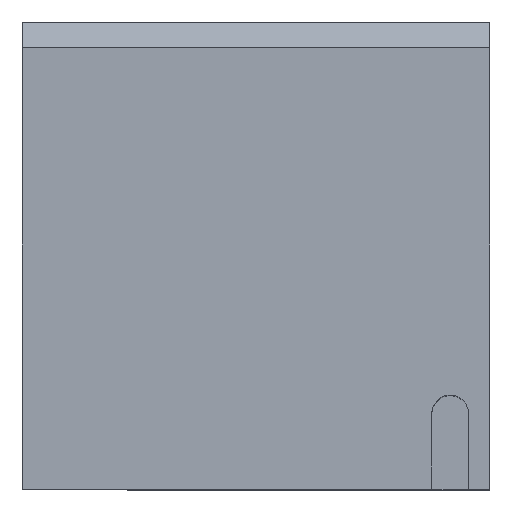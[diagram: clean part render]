
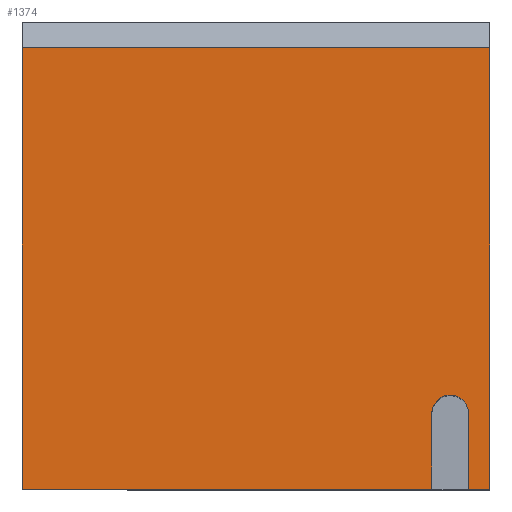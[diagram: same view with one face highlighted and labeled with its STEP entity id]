
A CAD part, top view. The second image highlights one B-rep face of the part: STEP entity #1374.
In plain terms, the highlighted planar face has unit normal (0, 0, 1).
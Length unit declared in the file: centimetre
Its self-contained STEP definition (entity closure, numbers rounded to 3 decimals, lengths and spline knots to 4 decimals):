
#17 = CARTESIAN_POINT ( 'NONE',  ( 1000., 1000., 1000. ) ) ;
#25 = EDGE_LOOP ( 'NONE', ( #800, #1163, #61, #259, #1486, #1098, #837, #1464 ) ) ;
#31 = VERTEX_POINT ( 'NONE', #947 ) ;
#38 = LINE ( 'NONE', #632, #948 ) ;
#61 = ORIENTED_EDGE ( 'NONE', *, *, #984, .F. ) ;
#100 = DIRECTION ( 'NONE',  ( 0., 1., 0. ) ) ;
#103 = CARTESIAN_POINT ( 'NONE',  ( 876.1632, 0., 1000. ) ) ;
#104 = CARTESIAN_POINT ( 'NONE',  ( 955.0174, 161.8305, 1000. ) ) ;
#111 = VECTOR ( 'NONE', #593, 100. ) ;
#135 = VECTOR ( 'NONE', #100, 100. ) ;
#137 = CIRCLE ( 'NONE', #1229, 39.4271 ) ;
#169 = EDGE_CURVE ( 'NONE', #877, #1027, #1445, .T. ) ;
#170 = DIRECTION ( 'NONE',  ( 0., -1., 0. ) ) ;
#180 = DIRECTION ( 'NONE',  ( 0., 0., 1. ) ) ;
#202 = DIRECTION ( 'NONE',  ( 0., 0., 1. ) ) ;
#206 = CARTESIAN_POINT ( 'NONE',  ( 0., 0., 1000. ) ) ;
#240 = EDGE_CURVE ( 'NONE', #1222, #871, #38, .T. ) ;
#255 = AXIS2_PLACEMENT_3D ( 'NONE', #1241, #180, #287 ) ;
#259 = ORIENTED_EDGE ( 'NONE', *, *, #541, .T. ) ;
#287 = DIRECTION ( 'NONE',  ( 1., 0., 0. ) ) ;
#330 = DIRECTION ( 'NONE',  ( 1., 0., 0. ) ) ;
#370 = CARTESIAN_POINT ( 'NONE',  ( 876.1632, 0., 1000. ) ) ;
#398 = VECTOR ( 'NONE', #700, 100. ) ;
#425 = EDGE_CURVE ( 'NONE', #428, #31, #137, .T. ) ;
#428 = VERTEX_POINT ( 'NONE', #1533 ) ;
#457 = LINE ( 'NONE', #1194, #1072 ) ;
#465 = DIRECTION ( 'NONE',  ( 0., -1., 0. ) ) ;
#481 = CARTESIAN_POINT ( 'NONE',  ( 0., 0., 1000. ) ) ;
#488 = EDGE_CURVE ( 'NONE', #871, #1042, #1508, .T. ) ;
#541 = EDGE_CURVE ( 'NONE', #898, #877, #1313, .T. ) ;
#593 = DIRECTION ( 'NONE',  ( 0., 1., 0. ) ) ;
#602 = LINE ( 'NONE', #370, #1355 ) ;
#632 = CARTESIAN_POINT ( 'NONE',  ( 0., 1000., 1000. ) ) ;
#674 = CARTESIAN_POINT ( 'NONE',  ( 915.5903, 161.8305, 1000. ) ) ;
#692 = DIRECTION ( 'NONE',  ( -1., 0., 0. ) ) ;
#700 = DIRECTION ( 'NONE',  ( 1., 0., 0. ) ) ;
#800 = ORIENTED_EDGE ( 'NONE', *, *, #922, .F. ) ;
#819 = LINE ( 'NONE', #104, #111 ) ;
#837 = ORIENTED_EDGE ( 'NONE', *, *, #240, .T. ) ;
#871 = VERTEX_POINT ( 'NONE', #206 ) ;
#877 = VERTEX_POINT ( 'NONE', #1062 ) ;
#894 = EDGE_CURVE ( 'NONE', #1027, #1222, #457, .T. ) ;
#898 = VERTEX_POINT ( 'NONE', #1177 ) ;
#922 = EDGE_CURVE ( 'NONE', #31, #1042, #602, .T. ) ;
#947 = CARTESIAN_POINT ( 'NONE',  ( 876.1632, 161.8305, 1000. ) ) ;
#948 = VECTOR ( 'NONE', #170, 100. ) ;
#963 = CARTESIAN_POINT ( 'NONE',  ( 0., 944.5724, 1000. ) ) ;
#984 = EDGE_CURVE ( 'NONE', #898, #428, #819, .T. ) ;
#1027 = VERTEX_POINT ( 'NONE', #1090 ) ;
#1042 = VERTEX_POINT ( 'NONE', #103 ) ;
#1062 = CARTESIAN_POINT ( 'NONE',  ( 1000., 0., 1000. ) ) ;
#1072 = VECTOR ( 'NONE', #1438, 100. ) ;
#1090 = CARTESIAN_POINT ( 'NONE',  ( 1000., 944.5724, 1000. ) ) ;
#1098 = ORIENTED_EDGE ( 'NONE', *, *, #894, .T. ) ;
#1149 = VECTOR ( 'NONE', #330, 100. ) ;
#1150 = FACE_OUTER_BOUND ( 'NONE', #25, .T. ) ;
#1163 = ORIENTED_EDGE ( 'NONE', *, *, #425, .F. ) ;
#1177 = CARTESIAN_POINT ( 'NONE',  ( 955.0174, 0., 1000. ) ) ;
#1194 = CARTESIAN_POINT ( 'NONE',  ( 0., 944.5724, 1000. ) ) ;
#1222 = VERTEX_POINT ( 'NONE', #963 ) ;
#1229 = AXIS2_PLACEMENT_3D ( 'NONE', #674, #202, #692 ) ;
#1241 = CARTESIAN_POINT ( 'NONE',  ( 0., 0., 1000. ) ) ;
#1313 = LINE ( 'NONE', #481, #398 ) ;
#1355 = VECTOR ( 'NONE', #465, 100. ) ;
#1370 = PLANE ( 'NONE',  #255 ) ;
#1374 = ADVANCED_FACE ( 'NONE', ( #1150 ), #1370, .T. ) ;
#1415 = CARTESIAN_POINT ( 'NONE',  ( 0., 0., 1000. ) ) ;
#1438 = DIRECTION ( 'NONE',  ( -1., 0., 0. ) ) ;
#1445 = LINE ( 'NONE', #17, #135 ) ;
#1464 = ORIENTED_EDGE ( 'NONE', *, *, #488, .T. ) ;
#1486 = ORIENTED_EDGE ( 'NONE', *, *, #169, .T. ) ;
#1508 = LINE ( 'NONE', #1415, #1149 ) ;
#1533 = CARTESIAN_POINT ( 'NONE',  ( 955.0174, 161.8305, 1000. ) ) ;
